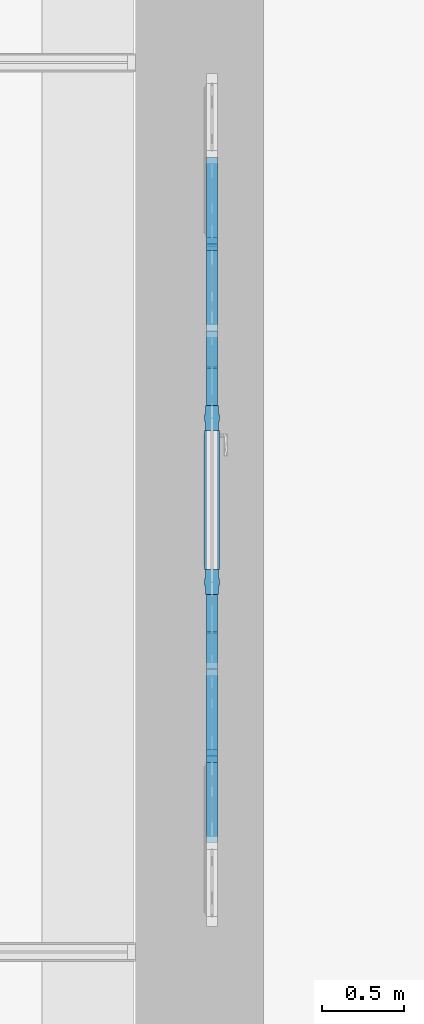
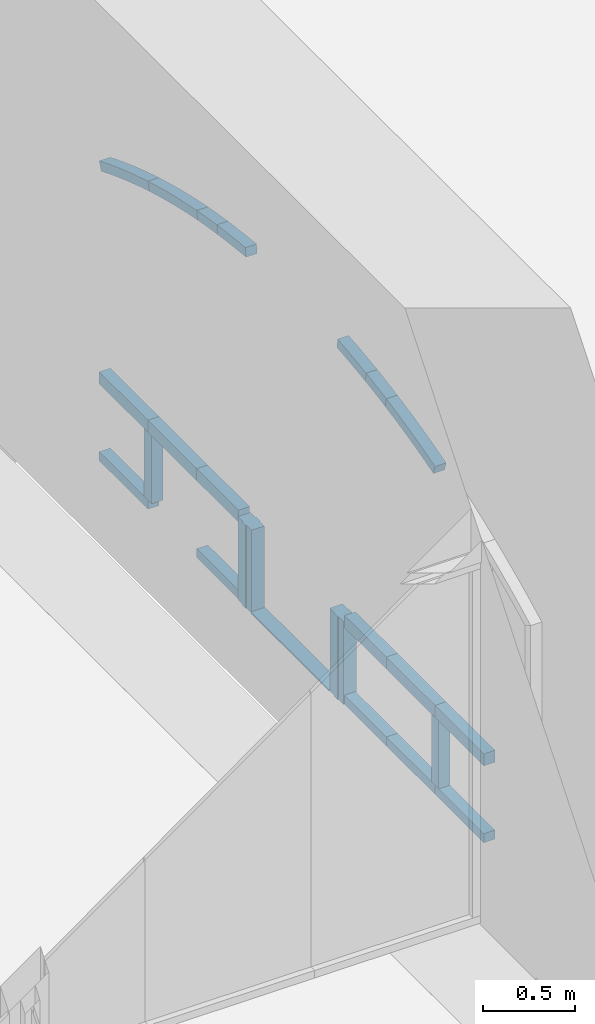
# One storey, part 27 of 88: 23 members, 1 element without a shape of its own.
"""IFC2X3 building model written with IfcOpenShell, lengths in millimetres."""

from ifc_helpers import new_model, entity, si_unit, converted_unit, derived_unit, direction, frame, frame_2d, origin, place, context, subcontext, project, spatial, polyline, circle_curve, parameter, trimmed, segment, composite_curve, rectangle, outline, extrude, source, transform, mapped, material, type_object, type_shapes, element, aggregate, save


model = new_model("IFC2X3")

# Units and contexts
model_context = context("Model", 3, precision=0.01, world=origin(), true_north=direction((6.123031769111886e-17, 1.0)))
body_context = subcontext(model_context, "Body", "Model", "MODEL_VIEW")
ifc_project = project(units=[si_unit("LENGTHUNIT", "METRE", prefix="MILLI"), si_unit("AREAUNIT", "SQUARE_METRE"), si_unit("VOLUMEUNIT", "CUBIC_METRE"), converted_unit("PLANEANGLEUNIT", "DEGREE", entity("IfcPlaneAngleMeasure", 0.017453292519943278), si_unit("PLANEANGLEUNIT", "RADIAN"), dimensions=[0, 0, 0, 0, 0, 0, 0]), si_unit("MASSUNIT", "GRAM", prefix="KILO"), derived_unit("MASSDENSITYUNIT", [(si_unit("MASSUNIT", "GRAM", prefix="KILO"), 1), (si_unit("LENGTHUNIT", "METRE"), -3)]), derived_unit("IONCONCENTRATIONUNIT", [(si_unit("MASSUNIT", "GRAM", prefix="KILO"), 1), (si_unit("LENGTHUNIT", "METRE"), -3)]), derived_unit("MOMENTOFINERTIAUNIT", [(si_unit("LENGTHUNIT", "METRE"), 4)]), si_unit("TIMEUNIT", "SECOND"), si_unit("FREQUENCYUNIT", "HERTZ"), si_unit("THERMODYNAMICTEMPERATUREUNIT", "DEGREE_CELSIUS"), derived_unit("THERMALTRANSMITTANCEUNIT", [(si_unit("MASSUNIT", "GRAM", prefix="KILO"), 1), (si_unit("THERMODYNAMICTEMPERATUREUNIT", "KELVIN"), -1), (si_unit("TIMEUNIT", "SECOND"), -3)]), derived_unit("THERMALCONDUCTANCEUNIT", [(si_unit("MASSUNIT", "GRAM", prefix="KILO"), 1), (si_unit("THERMODYNAMICTEMPERATUREUNIT", "KELVIN"), -1), (si_unit("TIMEUNIT", "SECOND"), -3), (si_unit("LENGTHUNIT", "METRE"), 1)]), derived_unit("VOLUMETRICFLOWRATEUNIT", [(si_unit("LENGTHUNIT", "METRE", prefix="DECI"), 3), (si_unit("TIMEUNIT", "SECOND"), -1)]), derived_unit("MASSFLOWRATEUNIT", [(si_unit("MASSUNIT", "GRAM", prefix="KILO"), 1), (si_unit("TIMEUNIT", "SECOND"), -1)]), derived_unit("ROTATIONALFREQUENCYUNIT", [(si_unit("TIMEUNIT", "SECOND"), -1)]), si_unit("ELECTRICCURRENTUNIT", "AMPERE"), si_unit("ELECTRICVOLTAGEUNIT", "VOLT"), si_unit("POWERUNIT", "WATT"), si_unit("FORCEUNIT", "NEWTON", prefix="KILO"), si_unit("ILLUMINANCEUNIT", "LUX"), si_unit("LUMINOUSFLUXUNIT", "LUMEN"), si_unit("LUMINOUSINTENSITYUNIT", "CANDELA"), si_unit("ENERGYUNIT", "JOULE"), derived_unit("USERDEFINED", [(si_unit("MASSUNIT", "GRAM", prefix="KILO"), -1), (si_unit("LENGTHUNIT", "METRE"), -2), (si_unit("TIMEUNIT", "SECOND"), 3), (si_unit("LUMINOUSFLUXUNIT", "LUMEN"), 1)]), derived_unit("USERDEFINED", [(si_unit("MASSUNIT", "GRAM", prefix="KILO"), 1), (si_unit("TIMEUNIT", "SECOND"), -3), (si_unit("LENGTHUNIT", "METRE"), 3), (si_unit("ELECTRICCURRENTUNIT", "AMPERE"), -2)]), derived_unit("SOUNDPOWERUNIT", [(si_unit("MASSUNIT", "GRAM", prefix="KILO"), 1), (si_unit("TIMEUNIT", "SECOND"), -3), (si_unit("LENGTHUNIT", "METRE"), 2)]), derived_unit("SOUNDPRESSUREUNIT", [(si_unit("MASSUNIT", "GRAM", prefix="KILO"), 1), (si_unit("LENGTHUNIT", "METRE"), -1), (si_unit("TIMEUNIT", "SECOND"), -2)]), derived_unit("LINEARVELOCITYUNIT", [(si_unit("LENGTHUNIT", "METRE"), 1), (si_unit("TIMEUNIT", "SECOND"), -1)]), si_unit("PRESSUREUNIT", "PASCAL"), derived_unit("USERDEFINED", [(si_unit("MASSUNIT", "GRAM", prefix="KILO"), 1), (si_unit("LENGTHUNIT", "METRE"), -2), (si_unit("TIMEUNIT", "SECOND"), -2)]), derived_unit("LINEARFORCEUNIT", [(si_unit("MASSUNIT", "GRAM", prefix="KILO"), 1), (si_unit("TIMEUNIT", "SECOND"), -2)]), derived_unit("PLANARFORCEUNIT", [(si_unit("MASSUNIT", "GRAM", prefix="KILO"), 1), (si_unit("LENGTHUNIT", "METRE"), -1), (si_unit("TIMEUNIT", "SECOND"), -2)]), derived_unit("SPECIFICHEATCAPACITYUNIT", [(si_unit("THERMODYNAMICTEMPERATUREUNIT", "KELVIN"), -1), (si_unit("LENGTHUNIT", "METRE"), 2), (si_unit("TIMEUNIT", "SECOND"), -2)]), derived_unit("HEATFLUXDENSITYUNIT", [(si_unit("MASSUNIT", "GRAM", prefix="KILO"), 1), (si_unit("TIMEUNIT", "SECOND"), -3)]), derived_unit("HEATINGVALUEUNIT", [(si_unit("LENGTHUNIT", "METRE"), 2), (si_unit("TIMEUNIT", "SECOND"), -2)]), derived_unit("VAPORPERMEABILITYUNIT", [(si_unit("LENGTHUNIT", "METRE"), -1), (si_unit("TIMEUNIT", "SECOND"), 1)]), derived_unit("DYNAMICVISCOSITYUNIT", [(si_unit("MASSUNIT", "GRAM", prefix="KILO"), 1), (si_unit("TIMEUNIT", "SECOND"), -1), (si_unit("LENGTHUNIT", "METRE"), -1)]), derived_unit("THERMALEXPANSIONCOEFFICIENTUNIT", [(si_unit("THERMODYNAMICTEMPERATUREUNIT", "KELVIN"), -1)]), derived_unit("MODULUSOFELASTICITYUNIT", [(si_unit("MASSUNIT", "GRAM", prefix="KILO"), 1), (si_unit("LENGTHUNIT", "METRE"), -1), (si_unit("TIMEUNIT", "SECOND"), -2)]), derived_unit("ISOTHERMALMOISTURECAPACITYUNIT", [(si_unit("MASSUNIT", "GRAM", prefix="KILO"), -1), (si_unit("LENGTHUNIT", "METRE"), 3)]), derived_unit("MOISTUREDIFFUSIVITYUNIT", [(si_unit("TIMEUNIT", "SECOND"), -1), (si_unit("LENGTHUNIT", "METRE"), 2)]), derived_unit("MASSPERLENGTHUNIT", [(si_unit("MASSUNIT", "GRAM", prefix="KILO"), 1), (si_unit("LENGTHUNIT", "METRE"), -1)]), derived_unit("THERMALRESISTANCEUNIT", [(si_unit("MASSUNIT", "GRAM", prefix="KILO"), -1), (si_unit("TIMEUNIT", "SECOND"), 3), (si_unit("THERMODYNAMICTEMPERATUREUNIT", "KELVIN"), 1)]), derived_unit("ACCELERATIONUNIT", [(si_unit("LENGTHUNIT", "METRE"), 1), (si_unit("TIMEUNIT", "SECOND"), -2)]), derived_unit("ANGULARVELOCITYUNIT", [(si_unit("TIMEUNIT", "SECOND"), -1), (si_unit("PLANEANGLEUNIT", "RADIAN"), 1)]), derived_unit("LINEARSTIFFNESSUNIT", [(si_unit("MASSUNIT", "GRAM", prefix="KILO"), 1), (si_unit("TIMEUNIT", "SECOND"), -2)]), derived_unit("WARPINGCONSTANTUNIT", [(si_unit("LENGTHUNIT", "METRE"), 6)]), derived_unit("LINEARMOMENTUNIT", [(si_unit("MASSUNIT", "GRAM", prefix="KILO"), 1), (si_unit("LENGTHUNIT", "METRE"), 1), (si_unit("TIMEUNIT", "SECOND"), -2)]), derived_unit("TORQUEUNIT", [(si_unit("MASSUNIT", "GRAM", prefix="KILO"), 1), (si_unit("LENGTHUNIT", "METRE"), 2), (si_unit("TIMEUNIT", "SECOND"), -2)])], contexts=[model_context])

# Site, building, storey
site_placement = place(None, origin())
site = spatial("IfcSite", under=ifc_project, at=site_placement, Name="Default", CompositionType="ELEMENT")
building_placement = place(site_placement, origin())
building = spatial("IfcBuilding", under=site, at=building_placement, Name="Eesti Rahvusraamatukogu hoone renoveerimise projekteerimistööd", CompositionType="ELEMENT")
storey_placement = place(building_placement, origin())
storey = spatial("IfcBuildingStorey", under=building, at=storey_placement, Name="1. korrus", CompositionType="ELEMENT", Elevation=0.0)

# Curtain wall, members
curtain_wall_type = type_object("IfcCurtainWallType", Name="Curtain Wall:Ak-05", PredefinedType="NOTDEFINED")
curtain_wall_placement = place(storey_placement, origin())
curtain_wall = element("IfcCurtainWall", 1, at=curtain_wall_placement, inside=storey, type_object=curtain_wall_type, Name="Curtain Wall:Ak-05", ObjectType="Curtain Wall:Ak-05")
ifc_material_1 = material(Name="LUMION_dark steel window frames")
member_type_1 = type_object("IfcMemberType", Name="Rectangular Mullion:NEW 60x70mm", PredefinedType="MULLION", material=ifc_material_1)
shared_shape_1 = source(origin(), body_context, "Body", "SweptSolid", [
    extrude(outline(composite_curve([segment(polyline([(-43.38278695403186, -270.80676601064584), (16.61721304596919, -270.80676601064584)]), True, "CONTINUOUS"), segment(trimmed(circle_curve(frame_2d((5479.897779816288, -270.80676601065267), x_axis=(-0.9951275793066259, 0.09859564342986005)), 5463.280566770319), [parameter(3.5622212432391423e-13)], [parameter(5.658307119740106)], True, "PARAMETER"), False, "CONTINUOUS"), segment(polyline([(43.23661433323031, 267.8488967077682), (-16.471040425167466, 273.7646353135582)]), True, "CONTINUOUS"), segment(trimmed(circle_curve(frame_2d((5479.897779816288, -270.80676601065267), x_axis=(-0.9951275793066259, 0.09859564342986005)), 5523.280566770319), [parameter(3.5622212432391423e-13)], [parameter(5.658307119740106)], True, "PARAMETER"), True, "CONTINUOUS")], self_intersect=False)), frame((-43.382786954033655, -35.0, -270.8067660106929), z_axis=(0.0, 1.0, 0.0), x_axis=(-0.9951275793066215, 0.0, 0.09859564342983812)), (0.0, 0.0, 1.0), 69.99999999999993),
])
type_shapes(member_type_1, [shared_shape_1])
member_1_placement = place(curtain_wall_placement, frame((-42905.0, 19865.0, 2125.118079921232), z_axis=(0.0, -0.9592847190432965, -0.28244083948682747), x_axis=(0.0, -0.28244083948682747, 0.9592847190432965)))
member_1 = element("IfcMember", 2, at=member_1_placement, type_object=member_type_1, material=ifc_material_1, Name="Rectangular Mullion:NEW 60x70mm", ObjectType="Rectangular Mullion:NEW 60x70mm", context=body_context, shape_type="MappedRepresentation", body=[
    mapped(shared_shape_1, transform((0.0, 0.0, 0.0), scale=1.0)),
])
member_type_2 = type_object("IfcMemberType", Name="Rectangular Mullion:NEW 60x70mm", PredefinedType="MULLION", material=ifc_material_1)
shared_shape_2 = source(origin(), body_context, "Body", "SweptSolid", [
    extrude(outline(composite_curve([segment(polyline([(-32.20246871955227, -109.97239538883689), (27.79753128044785, -109.97239538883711)]), True, "CONTINUOUS"), segment(trimmed(circle_curve(frame_2d((5491.078098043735, -109.97239538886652), x_axis=(-0.9991981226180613, 0.040038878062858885)), 5463.280566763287), [parameter(3.5622212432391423e-13)], [parameter(2.2946721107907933)], True, "PARAMETER"), False, "CONTINUOUS"), segment(polyline([(32.17841239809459, 108.77122904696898), (-27.7734749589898, 111.17356173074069)]), True, "CONTINUOUS"), segment(trimmed(circle_curve(frame_2d((5491.078098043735, -109.97239538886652), x_axis=(-0.9991981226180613, 0.040038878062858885)), 5523.280566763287), [parameter(3.5622212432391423e-13)], [parameter(2.2946721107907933)], True, "PARAMETER"), True, "CONTINUOUS")], self_intersect=False)), frame((-32.202468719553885, -35.0, -109.9723953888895), z_axis=(0.0, 1.0, 0.0), x_axis=(-0.9991981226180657, 0.0, 0.04003887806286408)), (0.0, 0.0, 1.0), 69.99999999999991),
])
type_shapes(member_type_2, [shared_shape_2])
member_2_placement = place(curtain_wall_placement, frame((-42905.0, 20395.0, 2253.11125646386), z_axis=(0.0, -0.9824581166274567, -0.18648337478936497), x_axis=(0.0, -0.18648337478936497, 0.9824581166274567)))
member_2 = element("IfcMember", 3, at=member_2_placement, type_object=member_type_2, material=ifc_material_1, Name="Rectangular Mullion:NEW 60x70mm", ObjectType="Rectangular Mullion:NEW 60x70mm", context=body_context, shape_type="MappedRepresentation", body=[
    mapped(shared_shape_2, transform((0.0, 0.0, 0.0), scale=1.0)),
])
member_type_3 = type_object("IfcMemberType", Name="Rectangular Mullion:NEW 60x70mm", PredefinedType="MULLION", material=ifc_material_1)
shared_shape_3 = source(origin(), body_context, "Body", "SweptSolid", [
    extrude(outline(composite_curve([segment(polyline([(-44.19959331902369, -278.9278071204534), (15.8004066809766, -278.92780712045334)]), True, "CONTINUOUS"), segment(trimmed(circle_curve(frame_2d((5479.0809734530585, -278.9278071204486), x_axis=(-0.9948301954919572, 0.10155236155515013)), 5463.28056677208), [parameter(3.5622212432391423e-13)], [parameter(5.828569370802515)], True, "PARAMETER"), False, "CONTINUOUS"), segment(polyline([(44.04449918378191, 275.88123627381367), (-15.645312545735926, 281.97437796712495)]), True, "CONTINUOUS"), segment(trimmed(circle_curve(frame_2d((5479.0809734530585, -278.9278071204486), x_axis=(-0.9948301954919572, 0.10155236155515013)), 5523.28056677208), [parameter(3.5622212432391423e-13)], [parameter(5.828569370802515)], True, "PARAMETER"), True, "CONTINUOUS")], self_intersect=False)), frame((-44.199593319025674, -35.0, -278.9278071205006), z_axis=(0.0, 1.0, 0.0), x_axis=(-0.994830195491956, 0.0, 0.1015523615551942)), (0.0, 0.0, 1.0), 70.0),
])
type_shapes(member_type_3, [shared_shape_3])
member_3_placement = place(curtain_wall_placement, frame((-42905.0, 22985.0, 2125.118079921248), z_axis=(0.0, -0.9592847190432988, 0.28244083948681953), x_axis=(0.0, 0.28244083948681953, 0.9592847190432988)))
member_3 = element("IfcMember", 4, at=member_3_placement, type_object=member_type_3, material=ifc_material_1, Name="Rectangular Mullion:NEW 60x70mm", ObjectType="Rectangular Mullion:NEW 60x70mm", context=body_context, shape_type="MappedRepresentation", body=[
    mapped(shared_shape_3, transform((0.0, 0.0, 0.0), scale=1.0)),
])
member_type_4 = type_object("IfcMemberType", Name="Rectangular Mullion:NEW 60x70mm", PredefinedType="MULLION", material=ifc_material_1)
shared_shape_4 = source(origin(), body_context, "Body", "SweptSolid", [
    extrude(outline(composite_curve([segment(polyline([(-43.38278695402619, -270.80676601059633), (16.61721304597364, -270.8067660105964)]), True, "CONTINUOUS"), segment(trimmed(circle_curve(frame_2d((5479.897779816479, -270.8067660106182), x_axis=(-0.9951275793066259, 0.0985956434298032)), 5463.280566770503), [parameter(3.5622212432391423e-13)], [parameter(5.658307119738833)], True, "PARAMETER"), False, "CONTINUOUS"), segment(polyline([(43.23661433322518, 267.848896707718), (-16.471040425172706, 273.76463531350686)]), True, "CONTINUOUS"), segment(trimmed(circle_curve(frame_2d((5479.897779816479, -270.8067660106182), x_axis=(-0.9951275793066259, 0.0985956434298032)), 5523.280566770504), [parameter(3.5622212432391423e-13)], [parameter(5.658307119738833)], True, "PARAMETER"), True, "CONTINUOUS")], self_intersect=False)), frame((-43.38278695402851, -35.0, -270.8067660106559), z_axis=(0.0, 1.0, 0.0), x_axis=(-0.9951275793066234, 0.0, 0.09859564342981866)), (0.0, 0.0, 1.0), 69.99999999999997),
])
type_shapes(member_type_4, [shared_shape_4])
member_4_placement = place(curtain_wall_placement, frame((-42905.0, 22455.0, 2253.111256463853), z_axis=(0.0, -0.9824581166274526, 0.18648337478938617), x_axis=(0.0, 0.18648337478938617, 0.9824581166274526)))
member_4 = element("IfcMember", 5, at=member_4_placement, type_object=member_type_4, material=ifc_material_1, Name="Rectangular Mullion:NEW 60x70mm", ObjectType="Rectangular Mullion:NEW 60x70mm", context=body_context, shape_type="MappedRepresentation", body=[
    mapped(shared_shape_4, transform((0.0, 0.0, 0.0), scale=1.0)),
])
member_type_5 = type_object("IfcMemberType", Name="Rectangular Mullion:NEW 60x70mm", PredefinedType="MULLION", material=ifc_material_1)
shared_shape_5 = source(origin(), body_context, "Body", "SweptSolid", [
    extrude(outline(composite_curve([segment(polyline([(-34.44225079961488, -156.14991642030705), (25.5577492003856, -156.14991642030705)]), True, "CONTINUOUS"), segment(trimmed(circle_curve(frame_2d((5488.8383159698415, -156.14991642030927), x_axis=(-0.9983826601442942, 0.05685124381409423)), 5463.280566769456), [parameter(3.5622212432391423e-13)], [parameter(3.2590935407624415)], True, "PARAMETER"), False, "CONTINUOUS"), segment(polyline([(34.393730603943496, 154.44437910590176), (-25.509229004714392, 157.8554537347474)]), True, "CONTINUOUS"), segment(trimmed(circle_curve(frame_2d((5488.8383159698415, -156.14991642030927), x_axis=(-0.9983826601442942, 0.05685124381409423)), 5523.280566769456), [parameter(3.5622212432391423e-13)], [parameter(3.2590935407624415)], True, "PARAMETER"), True, "CONTINUOUS")], self_intersect=False)), frame((-34.44225079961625, -35.0, -156.14991642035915), z_axis=(0.0, 1.0, 0.0), x_axis=(-0.9983826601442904, 0.0, 0.056851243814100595)), (0.0, 0.0, 1.0), 69.99999999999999),
])
type_shapes(member_type_5, [shared_shape_5])
member_5_placement = place(curtain_wall_placement, frame((-42905.0, 21925.0, 2327.3219656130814), z_axis=(0.0, -0.995894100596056, 0.09052591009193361), x_axis=(0.0, 0.09052591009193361, 0.995894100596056)))
member_5 = element("IfcMember", 6, at=member_5_placement, type_object=member_type_5, material=ifc_material_1, Name="Rectangular Mullion:NEW 60x70mm", ObjectType="Rectangular Mullion:NEW 60x70mm", context=body_context, shape_type="MappedRepresentation", body=[
    mapped(shared_shape_5, transform((0.0, 0.0, 0.0), scale=1.0)),
])
member_type_6 = type_object("IfcMemberType", Name="Rectangular Mullion:NEW 150x90mm", PredefinedType="MULLION", material=ifc_material_1)
shared_shape_6 = source(origin(), body_context, "Body", "SweptSolid", [
    extrude(outline(polyline([(40.0, -20.0), (45.0, -20.0), (45.0, 20.0), (40.0, 20.0), (40.0, 75.0), (-40.0, 75.0), (-40.0, 20.0), (-45.0, 20.0), (-45.0, -20.0), (-40.0, -20.0), (-40.0, -75.0), (40.0, -75.0), (40.0, -20.0)])), frame((0.0, 0.0, -550.0), z_axis=(0.0, 0.0, 1.0), x_axis=(0.0, -1.0, 0.0)), (0.0, 0.0, 1.0), 550.0000000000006),
])
type_shapes(member_type_6, [shared_shape_6])
member_6_placement = place(curtain_wall_placement, frame((-42905.0, 21925.0, -50.0), z_axis=(0.0, 0.0, -1.0), x_axis=(0.0, -1.0, 0.0)))
member_6 = element("IfcMember", 7, at=member_6_placement, type_object=member_type_6, material=ifc_material_1, Name="Rectangular Mullion:NEW 150x90mm", ObjectType="Rectangular Mullion:NEW 150x90mm", context=body_context, shape_type="MappedRepresentation", body=[
    mapped(shared_shape_6, transform((0.0, 0.0, 0.0), scale=1.0)),
])
member_7_placement = place(curtain_wall_placement, frame((-42905.0, 20925.0, -50.0), z_axis=(0.0, 0.0, -1.0), x_axis=(0.0, -1.0, 0.0)))
member_7 = element("IfcMember", 8, at=member_7_placement, type_object=member_type_6, material=ifc_material_1, Name="Rectangular Mullion:NEW 150x90mm", ObjectType="Rectangular Mullion:NEW 150x90mm", context=body_context, shape_type="MappedRepresentation", body=[
    mapped(shared_shape_6, transform((0.0, 0.0, 0.0), scale=1.0)),
])
member_type_7 = type_object("IfcMemberType", Name="Rectangular Mullion:NEW 80x70mm", PredefinedType="MULLION", material=ifc_material_1)
shared_shape_7 = source(origin(), body_context, "Body", "SweptSolid", [
    extrude(rectangle(XDim=80.0, YDim=70.0, at=frame_2d((0.0, -3.552713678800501e-15), x_axis=(1.0, 0.0))), frame((0.0, 0.0, -530.0), z_axis=(0.0, 0.0, 1.0), x_axis=(-1.0, 0.0, 0.0)), (0.0, 0.0, 1.0), 530.0000000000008),
])
type_shapes(member_type_7, [shared_shape_7])
member_8_placement = place(curtain_wall_placement, frame((-42905.0, 19335.0, 500.0), z_axis=(0.0, -1.0, 0.0), x_axis=(0.0, 0.0, 1.0)))
member_8 = element("IfcMember", 9, at=member_8_placement, type_object=member_type_7, material=ifc_material_1, Name="Rectangular Mullion:NEW 80x70mm", ObjectType="Rectangular Mullion:NEW 80x70mm", context=body_context, shape_type="MappedRepresentation", body=[
    mapped(shared_shape_7, transform((0.0, 0.0, 0.0), scale=1.0)),
])
member_9_placement = place(curtain_wall_placement, frame((-42905.0, 19865.0, 500.0), z_axis=(0.0, -1.0, 0.0), x_axis=(0.0, 0.0, 1.0)))
member_9 = element("IfcMember", 10, at=member_9_placement, type_object=member_type_7, material=ifc_material_1, Name="Rectangular Mullion:NEW 80x70mm", ObjectType="Rectangular Mullion:NEW 80x70mm", context=body_context, shape_type="MappedRepresentation", body=[
    mapped(shared_shape_7, transform((0.0, 0.0, 0.0), scale=1.0)),
])
member_10_placement = place(curtain_wall_placement, frame((-42905.0, 22985.0, 500.0), z_axis=(0.0, -1.0, 0.0), x_axis=(0.0, 0.0, 1.0)))
member_10 = element("IfcMember", 11, at=member_10_placement, type_object=member_type_7, material=ifc_material_1, Name="Rectangular Mullion:NEW 80x70mm", ObjectType="Rectangular Mullion:NEW 80x70mm", context=body_context, shape_type="MappedRepresentation", body=[
    mapped(shared_shape_7, transform((0.0, 0.0, 0.0), scale=1.0)),
])
member_11_placement = place(curtain_wall_placement, frame((-42905.0, 22455.0, 500.0), z_axis=(0.0, -1.0, 0.0), x_axis=(0.0, 0.0, 1.0)))
member_11 = element("IfcMember", 12, at=member_11_placement, type_object=member_type_7, material=ifc_material_1, Name="Rectangular Mullion:NEW 80x70mm", ObjectType="Rectangular Mullion:NEW 80x70mm", context=body_context, shape_type="MappedRepresentation", body=[
    mapped(shared_shape_7, transform((0.0, 0.0, 0.0), scale=1.0)),
])
member_type_8 = type_object("IfcMemberType", Name="Rectangular Mullion:NEW 80x70mm", PredefinedType="MULLION", material=ifc_material_1)
shared_shape_8 = source(origin(), body_context, "Body", "SweptSolid", [
    extrude(rectangle(XDim=80.0, YDim=70.0, at=frame_2d((0.0, -3.552713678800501e-15), x_axis=(1.0, 0.0))), frame((0.0, 0.0, -455.0), z_axis=(0.0, 0.0, 1.0), x_axis=(-1.0, 0.0, 0.0)), (0.0, 0.0, 1.0), 455.0000000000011),
])
type_shapes(member_type_8, [shared_shape_8])
member_12_placement = place(curtain_wall_placement, frame((-42905.0, 22000.0, 500.0), z_axis=(0.0, -1.0, 0.0), x_axis=(0.0, 0.0, 1.0)))
member_12 = element("IfcMember", 13, at=member_12_placement, type_object=member_type_8, material=ifc_material_1, Name="Rectangular Mullion:NEW 80x70mm", ObjectType="Rectangular Mullion:NEW 80x70mm", context=body_context, shape_type="MappedRepresentation", body=[
    mapped(shared_shape_8, transform((0.0, 0.0, 0.0), scale=1.0)),
])
member_type_9 = type_object("IfcMemberType", Name="Rectangular Mullion:NEW 80x70mm", PredefinedType="MULLION", material=ifc_material_1)
shared_shape_9 = source(origin(), body_context, "Body", "SweptSolid", [
    extrude(rectangle(XDim=80.0, YDim=70.0, at=frame_2d((0.0, -3.552713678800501e-15), x_axis=(1.0, 0.0))), frame((0.0, 0.0, -455.0), z_axis=(0.0, 0.0, 1.0), x_axis=(-1.0, 0.0, 0.0)), (0.0, 0.0, 1.0), 455.0000000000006),
])
type_shapes(member_type_9, [shared_shape_9])
member_13_placement = place(curtain_wall_placement, frame((-42905.0, 20395.0, 500.0), z_axis=(0.0, -1.0, 0.0), x_axis=(0.0, 0.0, 1.0)))
member_13 = element("IfcMember", 14, at=member_13_placement, type_object=member_type_9, material=ifc_material_1, Name="Rectangular Mullion:NEW 80x70mm", ObjectType="Rectangular Mullion:NEW 80x70mm", context=body_context, shape_type="MappedRepresentation", body=[
    mapped(shared_shape_9, transform((0.0, 0.0, 0.0), scale=1.0)),
])
member_type_10 = type_object("IfcMemberType", Name="Rectangular Mullion:NEW 80x70mm", PredefinedType="MULLION", material=ifc_material_1)
shared_shape_10 = source(origin(), body_context, "Body", "SweptSolid", [
    extrude(rectangle(XDim=80.0, YDim=70.0, at=frame_2d((0.0, 3.552713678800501e-15), x_axis=(1.0, 0.0))), frame((0.0, 0.0, -450.0), z_axis=(0.0, 0.0, 1.0), x_axis=(-1.0, 0.0, 0.0)), (0.0, 0.0, 1.0), 450.00000000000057),
])
type_shapes(member_type_10, [shared_shape_10])
member_14_placement = place(curtain_wall_placement, frame((-42905.0, 19865.0, 10.0), z_axis=(0.0, 0.0, -1.0), x_axis=(0.0, -1.0, 0.0)))
member_14 = element("IfcMember", 15, at=member_14_placement, type_object=member_type_10, material=ifc_material_1, Name="Rectangular Mullion:NEW 80x70mm", ObjectType="Rectangular Mullion:NEW 80x70mm", context=body_context, shape_type="MappedRepresentation", body=[
    mapped(shared_shape_10, transform((0.0, 0.0, 0.0), scale=1.0)),
])
member_15_placement = place(curtain_wall_placement, frame((-42905.0, 22985.0, 10.0), z_axis=(0.0, 0.0, -1.0), x_axis=(0.0, -1.0, 0.0)))
member_15 = element("IfcMember", 16, at=member_15_placement, type_object=member_type_10, material=ifc_material_1, Name="Rectangular Mullion:NEW 80x70mm", ObjectType="Rectangular Mullion:NEW 80x70mm", context=body_context, shape_type="MappedRepresentation", body=[
    mapped(shared_shape_10, transform((0.0, 0.0, 0.0), scale=1.0)),
])
member_type_11 = type_object("IfcMemberType", Name="Rectangular Mullion:NEW 60x70mm", PredefinedType="MULLION", material=ifc_material_1)
shared_shape_11 = source(origin(), body_context, "Body", "SweptSolid", [
    extrude(rectangle(XDim=60.0, YDim=70.0, at=frame_2d((0.0, 3.552713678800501e-15), x_axis=(1.0, 0.0))), frame((-30.0, 0.0, -530.0), z_axis=(0.0, 0.0, 1.0), x_axis=(-1.0, 0.0, 0.0)), (0.0, 0.0, 1.0), 530.0000000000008),
])
type_shapes(member_type_11, [shared_shape_11])
member_16_placement = place(curtain_wall_placement, frame((-42905.0, 19865.0, -50.0), z_axis=(0.0, 1.0, 0.0), x_axis=(0.0, 0.0, -1.0)))
member_16 = element("IfcMember", 17, at=member_16_placement, type_object=member_type_11, material=ifc_material_1, Name="Rectangular Mullion:NEW 60x70mm", ObjectType="Rectangular Mullion:NEW 60x70mm", context=body_context, shape_type="MappedRepresentation", body=[
    mapped(shared_shape_11, transform((0.0, 0.0, 0.0), scale=1.0)),
])
member_type_12 = type_object("IfcMemberType", Name="Rectangular Mullion:NEW 60x70mm", PredefinedType="MULLION", material=ifc_material_1)
shared_shape_12 = source(origin(), body_context, "Body", "SweptSolid", [
    extrude(rectangle(XDim=60.0, YDim=70.0, at=frame_2d((0.0, 3.552713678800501e-15), x_axis=(1.0, 0.0))), frame((-30.0, 0.0, -530.0), z_axis=(0.0, 0.0, 1.0), x_axis=(-1.0, 0.0, 0.0)), (0.0, 0.0, 1.0), 530.0000000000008),
])
type_shapes(member_type_12, [shared_shape_12])
member_17_placement = place(curtain_wall_placement, frame((-42905.0, 20395.0, -50.0), z_axis=(0.0, 1.0, 0.0), x_axis=(0.0, 0.0, -1.0)))
member_17 = element("IfcMember", 18, at=member_17_placement, type_object=member_type_12, material=ifc_material_1, Name="Rectangular Mullion:NEW 60x70mm", ObjectType="Rectangular Mullion:NEW 60x70mm", context=body_context, shape_type="MappedRepresentation", body=[
    mapped(shared_shape_12, transform((0.0, 0.0, 0.0), scale=1.0)),
])
member_18_placement = place(curtain_wall_placement, frame((-42905.0, 23515.0, -50.0), z_axis=(0.0, 1.0, 0.0), x_axis=(0.0, 0.0, -1.0)))
member_18 = element("IfcMember", 19, at=member_18_placement, type_object=member_type_12, material=ifc_material_1, Name="Rectangular Mullion:NEW 60x70mm", ObjectType="Rectangular Mullion:NEW 60x70mm", context=body_context, shape_type="MappedRepresentation", body=[
    mapped(shared_shape_12, transform((0.0, 0.0, 0.0), scale=1.0)),
])
member_type_13 = type_object("IfcMemberType", Name="Rectangular Mullion:NEW 60x70mm", PredefinedType="MULLION", material=ifc_material_1)
shared_shape_13 = source(origin(), body_context, "Body", "SweptSolid", [
    extrude(rectangle(XDim=60.0, YDim=70.0, at=frame_2d((0.0, 3.552713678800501e-15), x_axis=(1.0, 0.0))), frame((-30.0, 0.0, -455.0), z_axis=(0.0, 0.0, 1.0), x_axis=(-1.0, 0.0, 0.0)), (0.0, 0.0, 1.0), 455.0000000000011),
])
type_shapes(member_type_13, [shared_shape_13])
member_19_placement = place(curtain_wall_placement, frame((-42905.0, 22455.0, -50.0), z_axis=(0.0, 1.0, 0.0), x_axis=(0.0, 0.0, -1.0)))
member_19 = element("IfcMember", 20, at=member_19_placement, type_object=member_type_13, material=ifc_material_1, Name="Rectangular Mullion:NEW 60x70mm", ObjectType="Rectangular Mullion:NEW 60x70mm", context=body_context, shape_type="MappedRepresentation", body=[
    mapped(shared_shape_13, transform((0.0, 0.0, 0.0), scale=1.0)),
])
member_type_14 = type_object("IfcMemberType", Name="Rectangular Mullion:NEW 60x70mm", PredefinedType="MULLION", material=ifc_material_1)
shared_shape_14 = source(origin(), body_context, "Body", "SweptSolid", [
    extrude(rectangle(XDim=60.0, YDim=70.0, at=frame_2d((0.0, 3.552713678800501e-15), x_axis=(1.0, 0.0))), frame((-30.0, 0.0, -455.0), z_axis=(0.0, 0.0, 1.0), x_axis=(-1.0, 0.0, 0.0)), (0.0, 0.0, 1.0), 455.0000000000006),
])
type_shapes(member_type_14, [shared_shape_14])
member_20_placement = place(curtain_wall_placement, frame((-42905.0, 20850.0, -50.0), z_axis=(0.0, 1.0, 0.0), x_axis=(0.0, 0.0, -1.0)))
member_20 = element("IfcMember", 21, at=member_20_placement, type_object=member_type_14, material=ifc_material_1, Name="Rectangular Mullion:NEW 60x70mm", ObjectType="Rectangular Mullion:NEW 60x70mm", context=body_context, shape_type="MappedRepresentation", body=[
    mapped(shared_shape_14, transform((0.0, 0.0, 0.0), scale=1.0)),
])
ifc_material_2 = material(Name="Lumion_aluminium")
member_type_15 = type_object("IfcMemberType", Name="Rectangular Mullion:NEW 10x90mm", PredefinedType="MULLION", material=ifc_material_2)
shared_shape_15 = source(origin(), body_context, "Body", "SweptSolid", [
    extrude(rectangle(XDim=10.0, YDim=90.0, at=frame_2d((0.0, 3.552713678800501e-15), x_axis=(1.0, 0.0))), frame((-5.0, 0.0, -850.0), z_axis=(0.0, 0.0, 1.0), x_axis=(-1.0, 0.0, 0.0)), (0.0, 0.0, 1.0), 849.9999999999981),
])
type_shapes(member_type_15, [shared_shape_15])
member_21_placement = place(curtain_wall_placement, frame((-42905.0, 21850.0, -50.0), z_axis=(0.0, 1.0, 0.0), x_axis=(0.0, 0.0, -1.0)))
member_21 = element("IfcMember", 22, at=member_21_placement, type_object=member_type_15, material=ifc_material_2, Name="Rectangular Mullion:NEW 10x90mm", ObjectType="Rectangular Mullion:NEW 10x90mm", context=body_context, shape_type="MappedRepresentation", body=[
    mapped(shared_shape_15, transform((0.0, 0.0, 0.0), scale=1.0)),
])
member_type_16 = type_object("IfcMemberType", Name="Rectangular Mullion:NEW 60x70mm", PredefinedType="MULLION", material=ifc_material_1)
shared_shape_16 = source(origin(), body_context, "Body", "SweptSolid", [
    extrude(outline(composite_curve([segment(polyline([(-34.44225079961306, -156.14991642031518), (25.55774920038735, -156.14991642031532)]), True, "CONTINUOUS"), segment(trimmed(circle_curve(frame_2d((5488.838315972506, -156.14991642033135), x_axis=(-0.9983826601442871, 0.05685124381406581)), 5463.2805667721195), [parameter(3.5622212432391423e-13)], [parameter(3.2590935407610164)], True, "PARAMETER"), False, "CONTINUOUS"), segment(polyline([(34.393730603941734, 154.44437910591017), (-25.509229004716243, 157.8554537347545)]), True, "CONTINUOUS"), segment(trimmed(circle_curve(frame_2d((5488.838315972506, -156.14991642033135), x_axis=(-0.9983826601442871, 0.05685124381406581)), 5523.2805667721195), [parameter(3.5622212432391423e-13)], [parameter(3.2590935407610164)], True, "PARAMETER"), True, "CONTINUOUS")], self_intersect=False)), frame((-34.44225079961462, -35.0, -156.14991642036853), z_axis=(0.0, 1.0, 0.0), x_axis=(-0.9983826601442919, 0.0, 0.056851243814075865)), (0.0, 0.0, 1.0), 69.99999999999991),
])
type_shapes(member_type_16, [shared_shape_16])
member_22_placement = place(curtain_wall_placement, frame((-42905.0, 20613.09257423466, 2290.0), z_axis=(0.0, -0.9891368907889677, -0.14699731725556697), x_axis=(0.0, -0.14699731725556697, 0.9891368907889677)))
member_22 = element("IfcMember", 23, at=member_22_placement, type_object=member_type_16, material=ifc_material_1, Name="Rectangular Mullion:NEW 60x70mm", ObjectType="Rectangular Mullion:NEW 60x70mm", context=body_context, shape_type="MappedRepresentation", body=[
    mapped(shared_shape_16, transform((0.0, 0.0, 0.0), scale=1.0)),
])
member_type_17 = type_object("IfcMemberType", Name="Rectangular Mullion:NEW 60x70mm", PredefinedType="MULLION", material=ifc_material_1)
shared_shape_17 = source(origin(), body_context, "Body", "SweptSolid", [
    extrude(outline(composite_curve([segment(polyline([(-32.202468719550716, -109.97239538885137), (27.79753128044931, -109.97239538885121)]), True, "CONTINUOUS"), segment(trimmed(circle_curve(frame_2d((5491.078098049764, -109.97239538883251), x_axis=(-0.9991981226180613, 0.04003887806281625)), 5463.280566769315), [parameter(3.5622212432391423e-13)], [parameter(2.294672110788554)], True, "PARAMETER"), False, "CONTINUOUS"), segment(polyline([(32.17841239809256, 108.77122904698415), (-27.773474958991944, 111.17356173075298)]), True, "CONTINUOUS"), segment(trimmed(circle_curve(frame_2d((5491.078098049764, -109.97239538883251), x_axis=(-0.9991981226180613, 0.04003887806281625)), 5523.280566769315), [parameter(3.5622212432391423e-13)], [parameter(2.294672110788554)], True, "PARAMETER"), True, "CONTINUOUS")], self_intersect=False)), frame((-32.202468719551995, -35.0, -109.97239538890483), z_axis=(0.0, 1.0, 0.0), x_axis=(-0.9991981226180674, 0.0, 0.04003887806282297)), (0.0, 0.0, 1.0), 69.99999999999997),
])
type_shapes(member_type_17, [shared_shape_17])
member_23_placement = place(curtain_wall_placement, frame((-42905.0, 22236.90742576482, 2290.0), z_axis=(0.0, -0.9891368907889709, 0.1469973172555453), x_axis=(0.0, 0.1469973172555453, 0.9891368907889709)))
member_23 = element("IfcMember", 24, at=member_23_placement, type_object=member_type_17, material=ifc_material_1, Name="Rectangular Mullion:NEW 60x70mm", ObjectType="Rectangular Mullion:NEW 60x70mm", context=body_context, shape_type="MappedRepresentation", body=[
    mapped(shared_shape_17, transform((0.0, 0.0, 0.0), scale=1.0)),
])
aggregate(curtain_wall, [member_1, member_2, member_3, member_4, member_5, member_6, member_7, member_8, member_9, member_10, member_11, member_12, member_13, member_14, member_15, member_16, member_17, member_18, member_19, member_20, member_21, member_22, member_23])

save(model, "model.ifc")
